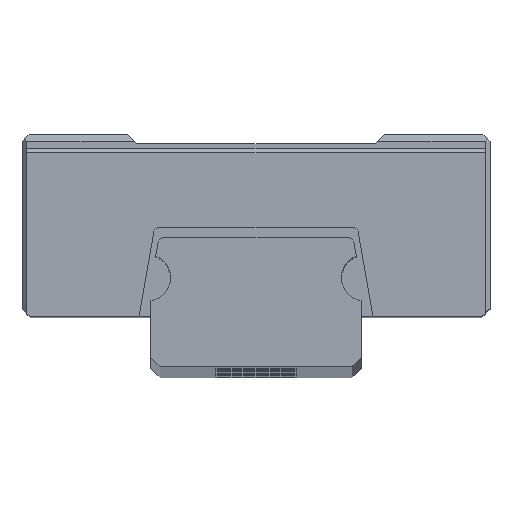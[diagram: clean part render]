
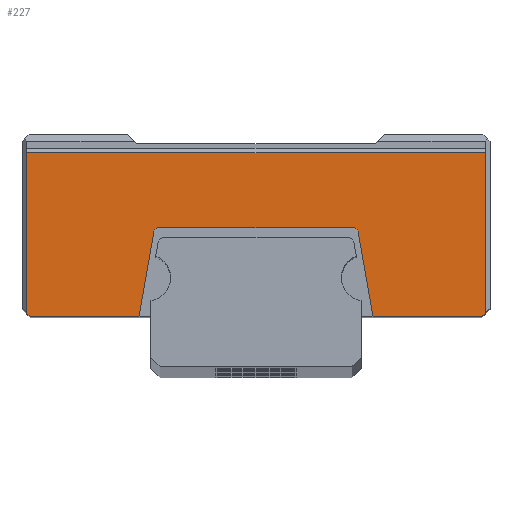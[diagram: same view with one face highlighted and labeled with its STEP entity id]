
A CAD part, top view. The second image highlights one B-rep face of the part: STEP entity #227.
In plain terms, the highlighted planar face has unit normal (0, 0, 1).
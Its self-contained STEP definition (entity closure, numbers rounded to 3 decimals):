
#227=ADVANCED_FACE('',(#541),#542,.F.);
#541=FACE_OUTER_BOUND('',#879,.T.);
#542=PLANE('',#880);
#879=EDGE_LOOP('',(#1655,#1656,#1657,#1658,#1659,#1660,#1661,#1662,#1663,#1664,#1665,#1666));
#880=AXIS2_PLACEMENT_3D('',#1667,#1668,#1669);
#1655=ORIENTED_EDGE('',*,*,#1982,.T.);
#1656=ORIENTED_EDGE('',*,*,#1990,.T.);
#1657=ORIENTED_EDGE('',*,*,#2009,.T.);
#1658=ORIENTED_EDGE('',*,*,#1988,.T.);
#1659=ORIENTED_EDGE('',*,*,#1983,.F.);
#1660=ORIENTED_EDGE('',*,*,#2083,.T.);
#1661=ORIENTED_EDGE('',*,*,#2084,.T.);
#1662=ORIENTED_EDGE('',*,*,#2051,.T.);
#1663=ORIENTED_EDGE('',*,*,#2012,.F.);
#1664=ORIENTED_EDGE('',*,*,#2082,.F.);
#1665=ORIENTED_EDGE('',*,*,#1955,.T.);
#1666=ORIENTED_EDGE('',*,*,#1965,.T.);
#1667=CARTESIAN_POINT('',(-5.0,-20.0,105.0));
#1668=DIRECTION('',(0.,0.,-1.0));
#1669=DIRECTION('',(1.0,0.,0.));
#1955=EDGE_CURVE('',#2324,#2325,#2326,.T.);
#1965=EDGE_CURVE('',#2325,#2342,#2344,.T.);
#1982=EDGE_CURVE('',#2342,#2372,#2374,.F.);
#1983=EDGE_CURVE('',#2375,#2376,#2377,.F.);
#1988=EDGE_CURVE('',#2385,#2376,#2386,.T.);
#1990=EDGE_CURVE('',#2372,#2388,#2389,.T.);
#2009=EDGE_CURVE('',#2388,#2385,#2416,.T.);
#2012=EDGE_CURVE('',#2420,#2422,#2423,.T.);
#2051=EDGE_CURVE('',#2487,#2422,#2488,.T.);
#2082=EDGE_CURVE('',#2324,#2420,#2537,.T.);
#2083=EDGE_CURVE('',#2375,#2538,#2539,.T.);
#2084=EDGE_CURVE('',#2538,#2487,#2540,.T.);
#2324=VERTEX_POINT('',#2832);
#2325=VERTEX_POINT('',#2833);
#2326=LINE('',#2834,#2835);
#2342=VERTEX_POINT('',#2859);
#2344=LINE('',#2862,#2863);
#2372=VERTEX_POINT('',#2906);
#2374=LINE('',#2909,#2910);
#2375=VERTEX_POINT('',#2911);
#2376=VERTEX_POINT('',#2912);
#2377=LINE('',#2913,#2914);
#2385=VERTEX_POINT('',#2925);
#2386=CIRCLE('',#2926,0.2);
#2388=VERTEX_POINT('',#2929);
#2389=CIRCLE('',#2930,0.2);
#2416=LINE('',#2961,#2962);
#2420=VERTEX_POINT('',#2967);
#2422=VERTEX_POINT('',#2970);
#2423=LINE('',#2971,#2972);
#2487=VERTEX_POINT('',#3074);
#2488=LINE('',#3075,#3076);
#2537=LINE('',#3151,#3152);
#2538=VERTEX_POINT('',#3153);
#2539=LINE('',#3154,#3155);
#2540=LINE('',#3156,#3157);
#2832=CARTESIAN_POINT('',(-9.8,2.35,105.0));
#2833=CARTESIAN_POINT('',(-9.65,2.2,105.0));
#2834=CARTESIAN_POINT('',(-9.65,2.2,105.0));
#2835=VECTOR('',#3466,1.0);
#2859=CARTESIAN_POINT('',(-5.0,2.2,105.0));
#2862=CARTESIAN_POINT('',(-4.5,2.2,105.0));
#2863=VECTOR('',#3476,1.0);
#2906=CARTESIAN_POINT('',(-4.359,5.835,105.0));
#2909=CARTESIAN_POINT('',(-5.0,2.2,105.0));
#2910=VECTOR('',#3493,1.0);
#2911=CARTESIAN_POINT('',(5.,2.2,105.0));
#2912=CARTESIAN_POINT('',(4.359,5.835,105.0));
#2913=CARTESIAN_POINT('',(8.495,-17.62,105.0));
#2914=VECTOR('',#3494,1.0);
#2925=CARTESIAN_POINT('',(4.162,6.,105.0));
#2926=AXIS2_PLACEMENT_3D('',#3501,#3502,#3503);
#2929=CARTESIAN_POINT('',(-4.162,6.,105.0));
#2930=AXIS2_PLACEMENT_3D('',#3505,#3506,#3507);
#2961=CARTESIAN_POINT('',(-62.5,6.,105.0));
#2962=VECTOR('',#3545,1.0);
#2967=CARTESIAN_POINT('',(-9.8,9.2,105.0));
#2970=CARTESIAN_POINT('',(9.8,9.2,105.0));
#2971=CARTESIAN_POINT('',(-62.5,9.2,105.0));
#2972=VECTOR('',#3548,1.0);
#3074=CARTESIAN_POINT('',(9.8,2.35,105.0));
#3075=CARTESIAN_POINT('',(9.8,-20.0,105.0));
#3076=VECTOR('',#3587,1.0);
#3151=CARTESIAN_POINT('',(-9.8,-20.0,105.0));
#3152=VECTOR('',#3626,1.0);
#3153=CARTESIAN_POINT('',(9.65,2.2,105.0));
#3154=CARTESIAN_POINT('',(9.65,2.2,105.0));
#3155=VECTOR('',#3627,1.0);
#3156=CARTESIAN_POINT('',(10.0,2.55,105.0));
#3157=VECTOR('',#3628,1.0);
#3466=DIRECTION('',(0.707,-0.707,0.));
#3476=DIRECTION('',(1.0,0.0,0.));
#3493=DIRECTION('',(-0.174,-0.985,0.));
#3494=DIRECTION('',(0.174,-0.985,0.));
#3501=CARTESIAN_POINT('',(4.162,5.8,105.0));
#3502=DIRECTION('',(0.,0.,-1.0));
#3503=DIRECTION('',(0.0,1.0,0.));
#3505=CARTESIAN_POINT('',(-4.162,5.8,105.0));
#3506=DIRECTION('',(0.,0.,-1.0));
#3507=DIRECTION('',(0.0,1.0,0.));
#3545=DIRECTION('',(1.0,0.0,0.0));
#3548=DIRECTION('',(1.0,0.0,0.0));
#3587=DIRECTION('',(0.,1.0,0.));
#3626=DIRECTION('',(0.,1.0,0.));
#3627=DIRECTION('',(1.0,0.0,0.));
#3628=DIRECTION('',(0.707,0.707,0.));
